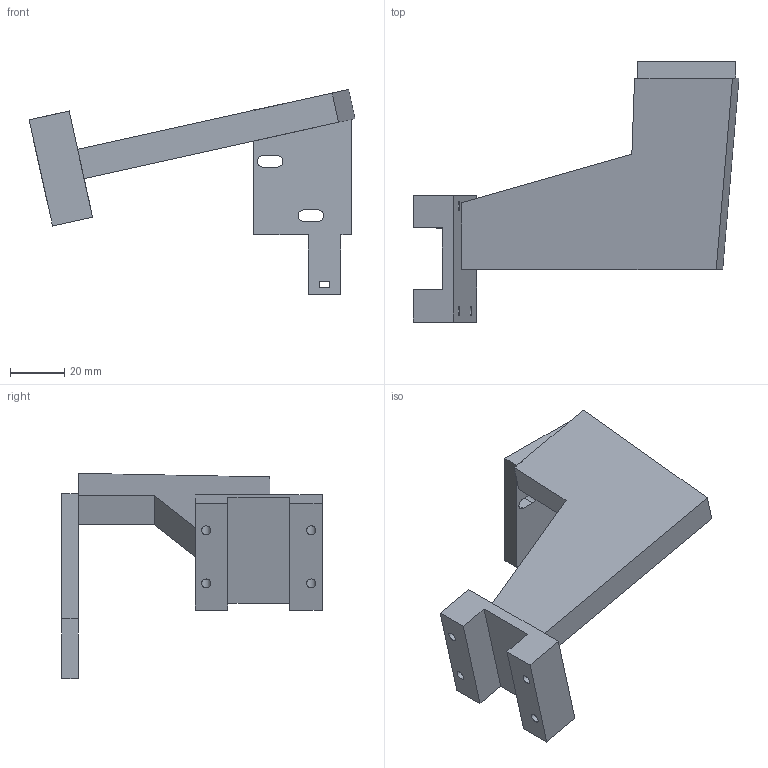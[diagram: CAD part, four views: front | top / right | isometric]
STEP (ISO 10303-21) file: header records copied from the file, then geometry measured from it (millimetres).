
FILE_DESCRIPTION(('Open CASCADE Model'),'2;1');
FILE_NAME('Open CASCADE Shape Model','2026-10-17T22:15:36',('Author'),( 'Open CASCADE'),'Open CASCADE STEP processor 7.9','Open CASCADE 7.9' ,'Unknown');
FILE_SCHEMA(('AUTOMOTIVE_DESIGN { 1 0 10303 214 1 1 1 1 }'));
Length unit declared in the file: millimetre
Products named in the file (1): Open CASCADE STEP translator 7.9 6
Bounding box: 119.82 x 95.69 x 75.46 mm (x, y, z)
Volume: 78959.4 mm3; surface area: 24218.1 mm2
Topology: 1 solids, 1 shells, 45 faces, 122 edges, 80 vertices
Faces by surface type: plane 37, cylinder 8
Full cylindrical faces by diameter (mm): 3.4 x4
Entity records: 3016 total; most frequent: CARTESIAN_POINT 644, DIRECTION 402, LINE 278, VECTOR 278, ORIENTED_EDGE 244, PCURVE 244, DEFINITIONAL_REPRESENTATION 244, EDGE_CURVE 122
